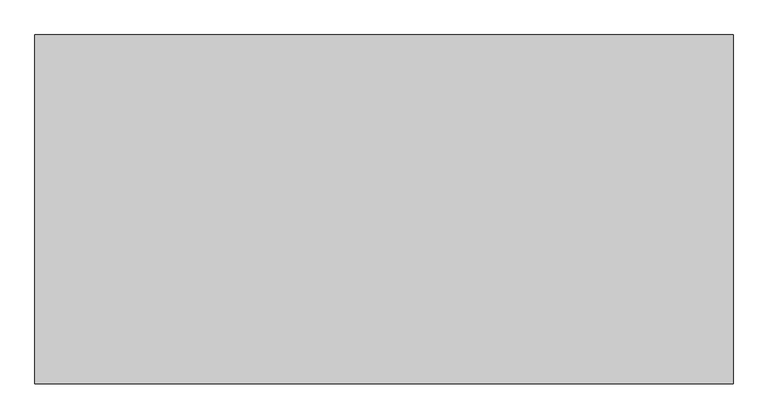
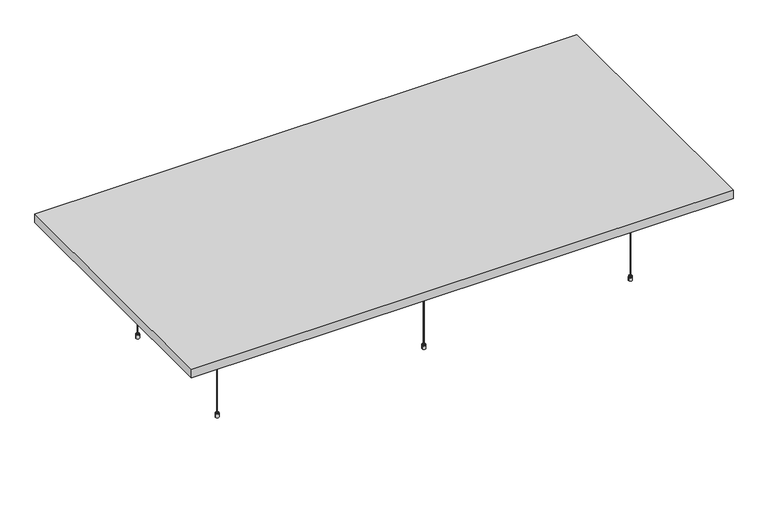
"""IFC4 building model written with IfcOpenShell, lengths in millimetres: proxy geometry, OWA Selecta : Selecta grande."""

from ifc_helpers import new_model, si_unit, point, frame, frame_2d, origin, place, context, project, spatial, polyline, circle_curve, trimmed, segment, composite_curve, outline, extrude, source, transform, mapped, element, save
from ifc_brep_helpers import plane_surface, cylinder_surface, revolved_surface, advanced_brep


def specialty_equipment_522a419b(model_context):
    return source(origin(), model_context, "Body", "SolidModel", [
        advanced_brep(
        [(-433.5, 305.0, 0.0), (-425.7593825, 305.0, 0.0), (-441.2406175, 305.0, 0.0), (-425.7593825, 305.0, 15.0), (-441.2406175, 305.0, 15.0), (-426.6843825, 305.0, 15.0), (-440.3156175, 305.0, 15.0), (-426.6843825, 305.0, 19.0), (-440.3156175, 305.0, 19.0), (-431.4343825, 305.0, 19.0), (-435.5656175, 305.0, 19.0), (-431.4343825, 305.0, 22.546183), (-435.5656175, 305.0, 22.546183), (-433.5, 305.0, 22.546183)],
        [
            (0, 1),
            (1, 2, circle_curve(frame((-433.5, 305.0, 0.0), z_axis=(0.0, 0.0, -1.0), x_axis=(-1.0, 0.0, 0.0)), 7.7406175)),
            (2, 0),
            (2, 1, circle_curve(frame((-433.5, 305.0, 0.0), z_axis=(0.0, 0.0, -1.0), x_axis=(-1.0, 0.0, 0.0)), 7.7406175)),
            (1, 3),
            (3, 4, circle_curve(frame((-433.5, 305.0, 15.0), z_axis=(0.0, 0.0, -1.0), x_axis=(-1.0, 0.0, 0.0)), 7.7406175)),
            (4, 2),
            (4, 3, circle_curve(frame((-433.5, 305.0, 15.0), z_axis=(0.0, 0.0, -1.0), x_axis=(-1.0, 0.0, 0.0)), 7.7406175)),
            (3, 5),
            (5, 6, circle_curve(frame((-433.5, 305.0, 15.0), z_axis=(0.0, 0.0, -1.0), x_axis=(-1.0, 0.0, 0.0)), 6.8156175)),
            (6, 4),
            (6, 5, circle_curve(frame((-433.5, 305.0, 15.0), z_axis=(0.0, 0.0, -1.0), x_axis=(-1.0, 0.0, 0.0)), 6.8156175)),
            (5, 7),
            (7, 8, circle_curve(frame((-433.5, 305.0, 19.0), z_axis=(0.0, 0.0, -1.0), x_axis=(-1.0, 0.0, 0.0)), 6.8156175)),
            (8, 6),
            (8, 7, circle_curve(frame((-433.5, 305.0, 19.0), z_axis=(0.0, 0.0, -1.0), x_axis=(-1.0, 0.0, 0.0)), 6.8156175)),
            (7, 9),
            (9, 10, circle_curve(frame((-433.5, 305.0, 19.0), z_axis=(0.0, 0.0, -1.0), x_axis=(-1.0, 0.0, 0.0)), 2.0656175)),
            (10, 8),
            (10, 9, circle_curve(frame((-433.5, 305.0, 19.0), z_axis=(0.0, 0.0, -1.0), x_axis=(-1.0, 0.0, 0.0)), 2.0656175)),
            (9, 11),
            (11, 12, circle_curve(frame((-433.5, 305.0, 22.546183), z_axis=(0.0, 0.0, -1.0), x_axis=(-1.0, 0.0, 0.0)), 2.0656175)),
            (12, 10),
            (12, 11, circle_curve(frame((-433.5, 305.0, 22.546183), z_axis=(0.0, 0.0, -1.0), x_axis=(-1.0, 0.0, 0.0)), 2.0656175)),
            (11, 13),
            (13, 12),
        ],
        [
            plane_surface(frame((-433.5, 305.0, 0.0), z_axis=(0.0, 0.0, -1.0), x_axis=(-1.0, 0.0, 0.0))),
            cylinder_surface(frame((-433.5, 305.0, -10.0), z_axis=(0.0, 0.0, -1.0), x_axis=(-1.0, 0.0, 0.0)), 7.7406175),
            plane_surface(frame((-433.5, 305.0, 15.0), z_axis=(0.0, 0.0, 1.0), x_axis=(-1.0, 0.0, 0.0))),
            cylinder_surface(frame((-433.5, 305.0, -10.0), z_axis=(0.0, 0.0, -1.0), x_axis=(-1.0, 0.0, 0.0)), 6.8156175),
            plane_surface(frame((-433.5, 305.0, 19.0), z_axis=(0.0, 0.0, 1.0), x_axis=(-1.0, 0.0, 0.0))),
            cylinder_surface(frame((-433.5, 305.0, -10.0), z_axis=(0.0, 0.0, -1.0), x_axis=(-1.0, 0.0, 0.0)), 2.0656175),
            plane_surface(frame((-433.5, 305.0, 22.546183), z_axis=(0.0, 0.0, 1.0), x_axis=(-1.0, 0.0, 0.0))),
        ],
        [
            (0, [[1, 2, 3]]),
            (0, [[-3, 4, -1]]),
            (1, [[5, 6, 7, -2]]),
            (1, [[-7, 8, -5, -4]]),
            (2, [[9, 10, 11, -6]]),
            (2, [[-11, 12, -9, -8]]),
            (3, [[13, 14, 15, -10]]),
            (3, [[-15, 16, -13, -12]]),
            (4, [[17, 18, 19, -14]]),
            (4, [[-19, 20, -17, -16]]),
            (5, [[21, 22, 23, -18]]),
            (5, [[-23, 24, -21, -20]]),
            (6, [[25, 26, -22]]),
            (6, [[-26, -25, -24]]),
        ],
    ),
        advanced_brep(
        [(-431.2615389, 305.0, 428.8211737), (-431.1339453, 305.0, 432.8711737), (-435.8660547, 305.0, 432.8711737), (-435.7384611, 305.0, 428.8211737), (-428.6339453, 305.0, 432.8711737), (-438.3660547, 305.0, 432.8711737), (-428.6339453, 305.0, 458.1211737), (-438.3660547, 305.0, 458.1211737), (-417.6339453, 305.0, 458.1211737), (-449.3660547, 305.0, 458.1211737), (-417.6339453, 305.0, 460.0), (-449.3660547, 305.0, 460.0), (-433.5, 305.0, 460.0), (-433.5, 305.0, 428.8211737)],
        [
            (0, 1),
            (1, 2, circle_curve(frame((-433.5, 305.0, 432.8711737), z_axis=(0.0, 0.0, -1.0), x_axis=(-1.0, 0.0, 0.0)), 2.3660547)),
            (2, 3),
            (3, 0, circle_curve(frame((-433.5, 305.0, 428.8211737), z_axis=(0.0, 0.0, 1.0), x_axis=(-1.0, 0.0, 0.0)), 2.2384611)),
            (2, 1, circle_curve(frame((-433.5, 305.0, 432.8711737), z_axis=(0.0, 0.0, -1.0), x_axis=(-1.0, 0.0, 0.0)), 2.3660547)),
            (0, 3, circle_curve(frame((-433.5, 305.0, 428.8211737), z_axis=(0.0, 0.0, 1.0), x_axis=(-1.0, 0.0, 0.0)), 2.2384611)),
            (1, 4),
            (4, 5, circle_curve(frame((-433.5, 305.0, 432.8711737), z_axis=(0.0, 0.0, -1.0), x_axis=(-1.0, 0.0, 0.0)), 4.8660547)),
            (5, 2),
            (5, 4, circle_curve(frame((-433.5, 305.0, 432.8711737), z_axis=(0.0, 0.0, -1.0), x_axis=(-1.0, 0.0, 0.0)), 4.8660547)),
            (4, 6),
            (6, 7, circle_curve(frame((-433.5, 305.0, 458.1211737), z_axis=(0.0, 0.0, -1.0), x_axis=(-1.0, 0.0, 0.0)), 4.8660547)),
            (7, 5),
            (7, 6, circle_curve(frame((-433.5, 305.0, 458.1211737), z_axis=(0.0, 0.0, -1.0), x_axis=(-1.0, 0.0, 0.0)), 4.8660547)),
            (6, 8),
            (8, 9, circle_curve(frame((-433.5, 305.0, 458.1211737), z_axis=(0.0, 0.0, -1.0), x_axis=(-1.0, 0.0, 0.0)), 15.8660547)),
            (9, 7),
            (9, 8, circle_curve(frame((-433.5, 305.0, 458.1211737), z_axis=(0.0, 0.0, -1.0), x_axis=(-1.0, 0.0, 0.0)), 15.8660547)),
            (8, 10),
            (10, 11, circle_curve(frame((-433.5, 305.0, 460.0), z_axis=(0.0, 0.0, -1.0), x_axis=(-1.0, 0.0, 0.0)), 15.8660547)),
            (11, 9),
            (11, 10, circle_curve(frame((-433.5, 305.0, 460.0), z_axis=(0.0, 0.0, -1.0), x_axis=(-1.0, 0.0, 0.0)), 15.8660547)),
            (10, 12),
            (12, 11),
            (13, 0),
            (3, 13),
        ],
        [
            revolved_surface(polyline([(-435.8660547, 305.0, 432.8711737), (-435.7384611, 305.0, 428.8211737)]), (-433.5, 305.0, 461.8401096), (0.0, 0.0, -1.0)),
            plane_surface(frame((-433.5, 305.0, 432.8711737), z_axis=(0.0, 0.0, -1.0), x_axis=(-1.0, 0.0, 0.0))),
            cylinder_surface(frame((-433.5, 305.0, 461.8401096), z_axis=(0.0, 0.0, -1.0), x_axis=(-1.0, 0.0, 0.0)), 4.8660547),
            plane_surface(frame((-433.5, 305.0, 458.1211737), z_axis=(0.0, 0.0, -1.0), x_axis=(-1.0, 0.0, 0.0))),
            cylinder_surface(frame((-433.5, 305.0, 461.8401096), z_axis=(0.0, 0.0, -1.0), x_axis=(-1.0, 0.0, 0.0)), 15.8660547),
            plane_surface(frame((-433.5, 305.0, 460.0), z_axis=(0.0, 0.0, 1.0), x_axis=(-1.0, 0.0, 0.0))),
            plane_surface(frame((-433.5, 305.0, 428.8211737), z_axis=(0.0, 0.0, -1.0), x_axis=(-1.0, 0.0, 0.0))),
        ],
        [
            (0, [[1, 2, 3, 4]]),
            (0, [[-3, 5, -1, 6]]),
            (1, [[7, 8, 9, -2]]),
            (1, [[-9, 10, -7, -5]]),
            (2, [[11, 12, 13, -8]]),
            (2, [[-13, 14, -11, -10]]),
            (3, [[15, 16, 17, -12]]),
            (3, [[-17, 18, -15, -14]]),
            (4, [[19, 20, 21, -16]]),
            (4, [[-21, 22, -19, -18]]),
            (5, [[23, 24, -20]]),
            (5, [[-24, -23, -22]]),
            (6, [[25, -4, 26]]),
            (6, [[-26, -6, -25]]),
        ],
    ),
        extrude(outline(composite_curve([segment(trimmed(circle_curve(frame_2d((-433.5, 305.0)), 1.0), [point((-434.5, 305.0))], [point((-432.5, 305.0))], False, "CARTESIAN"), True, "CONTINUOUS"), segment(trimmed(circle_curve(frame_2d((-433.5, 305.0)), 1.0), [point((-432.5, 305.0))], [point((-434.5, 305.0))], False, "CARTESIAN"), True, "CONTINUOUS")], self_intersect=False)), frame((0.0, 0.0, 22.546183), z_axis=(0.0, 0.0, 1.0), x_axis=(1.0, 0.0, 0.0)), (0.0, 0.0, 1.0), 406.2749908),
        advanced_brep(
        [(-433.5, -305.0, 0.0), (-441.2406175, -305.0, 0.0), (-425.7593825, -305.0, 0.0), (-441.2406175, -305.0, 15.0), (-425.7593825, -305.0, 15.0), (-440.3156175, -305.0, 15.0), (-426.6843825, -305.0, 15.0), (-440.3156175, -305.0, 19.0), (-426.6843825, -305.0, 19.0), (-435.5656175, -305.0, 19.0), (-431.4343825, -305.0, 19.0), (-435.5656175, -305.0, 22.546183), (-431.4343825, -305.0, 22.546183), (-433.5, -305.0, 22.546183)],
        [
            (0, 1),
            (1, 2, circle_curve(frame((-433.5, -305.0, 0.0), z_axis=(0.0, 0.0, -1.0), x_axis=(-1.0, 0.0, 0.0)), 7.7406175)),
            (2, 0),
            (2, 1, circle_curve(frame((-433.5, -305.0, 0.0), z_axis=(0.0, 0.0, -1.0), x_axis=(-1.0, 0.0, 0.0)), 7.7406175)),
            (1, 3),
            (3, 4, circle_curve(frame((-433.5, -305.0, 15.0), z_axis=(0.0, 0.0, -1.0), x_axis=(-1.0, 0.0, 0.0)), 7.7406175)),
            (4, 2),
            (4, 3, circle_curve(frame((-433.5, -305.0, 15.0), z_axis=(0.0, 0.0, -1.0), x_axis=(-1.0, 0.0, 0.0)), 7.7406175)),
            (3, 5),
            (5, 6, circle_curve(frame((-433.5, -305.0, 15.0), z_axis=(0.0, 0.0, -1.0), x_axis=(-1.0, 0.0, 0.0)), 6.8156175)),
            (6, 4),
            (6, 5, circle_curve(frame((-433.5, -305.0, 15.0), z_axis=(0.0, 0.0, -1.0), x_axis=(-1.0, 0.0, 0.0)), 6.8156175)),
            (5, 7),
            (7, 8, circle_curve(frame((-433.5, -305.0, 19.0), z_axis=(0.0, 0.0, -1.0), x_axis=(-1.0, 0.0, 0.0)), 6.8156175)),
            (8, 6),
            (8, 7, circle_curve(frame((-433.5, -305.0, 19.0), z_axis=(0.0, 0.0, -1.0), x_axis=(-1.0, 0.0, 0.0)), 6.8156175)),
            (7, 9),
            (9, 10, circle_curve(frame((-433.5, -305.0, 19.0), z_axis=(0.0, 0.0, -1.0), x_axis=(-1.0, 0.0, 0.0)), 2.0656175)),
            (10, 8),
            (10, 9, circle_curve(frame((-433.5, -305.0, 19.0), z_axis=(0.0, 0.0, -1.0), x_axis=(-1.0, 0.0, 0.0)), 2.0656175)),
            (9, 11),
            (11, 12, circle_curve(frame((-433.5, -305.0, 22.546183), z_axis=(0.0, 0.0, -1.0), x_axis=(-1.0, 0.0, 0.0)), 2.0656175)),
            (12, 10),
            (12, 11, circle_curve(frame((-433.5, -305.0, 22.546183), z_axis=(0.0, 0.0, -1.0), x_axis=(-1.0, 0.0, 0.0)), 2.0656175)),
            (11, 13),
            (13, 12),
        ],
        [
            plane_surface(frame((-433.5, -305.0, 0.0), z_axis=(0.0, 0.0, -1.0), x_axis=(-1.0, 0.0, 0.0))),
            cylinder_surface(frame((-433.5, -305.0, -10.0), z_axis=(0.0, 0.0, -1.0), x_axis=(-1.0, 0.0, 0.0)), 7.7406175),
            plane_surface(frame((-433.5, -305.0, 15.0), z_axis=(0.0, 0.0, 1.0), x_axis=(-1.0, 0.0, 0.0))),
            cylinder_surface(frame((-433.5, -305.0, -10.0), z_axis=(0.0, 0.0, -1.0), x_axis=(-1.0, 0.0, 0.0)), 6.8156175),
            plane_surface(frame((-433.5, -305.0, 19.0), z_axis=(0.0, 0.0, 1.0), x_axis=(-1.0, 0.0, 0.0))),
            cylinder_surface(frame((-433.5, -305.0, -10.0), z_axis=(0.0, 0.0, -1.0), x_axis=(-1.0, 0.0, 0.0)), 2.0656175),
            plane_surface(frame((-433.5, -305.0, 22.546183), z_axis=(0.0, 0.0, 1.0), x_axis=(-1.0, 0.0, 0.0))),
        ],
        [
            (0, [[1, 2, 3]]),
            (0, [[-3, 4, -1]]),
            (1, [[-2, 5, 6, 7]]),
            (1, [[-4, -7, 8, -5]]),
            (2, [[-6, 9, 10, 11]]),
            (2, [[-8, -11, 12, -9]]),
            (3, [[-10, 13, 14, 15]]),
            (3, [[-12, -15, 16, -13]]),
            (4, [[-14, 17, 18, 19]]),
            (4, [[-16, -19, 20, -17]]),
            (5, [[-18, 21, 22, 23]]),
            (5, [[-20, -23, 24, -21]]),
            (6, [[-22, 25, 26]]),
            (6, [[-24, -26, -25]]),
        ],
    ),
        advanced_brep(
        [(-431.2615389, -305.0, 428.8211737), (-435.7384611, -305.0, 428.8211737), (-435.8660547, -305.0, 432.8711737), (-431.1339453, -305.0, 432.8711737), (-438.3660547, -305.0, 432.8711737), (-428.6339453, -305.0, 432.8711737), (-438.3660547, -305.0, 458.1211737), (-428.6339453, -305.0, 458.1211737), (-449.3660547, -305.0, 458.1211737), (-417.6339453, -305.0, 458.1211737), (-449.3660547, -305.0, 460.0), (-417.6339453, -305.0, 460.0), (-433.5, -305.0, 460.0), (-433.5, -305.0, 428.8211737)],
        [
            (0, 1, circle_curve(frame((-433.5, -305.0, 428.8211737), z_axis=(0.0, 0.0, 1.0), x_axis=(-1.0, 0.0, 0.0)), 2.2384611)),
            (1, 2),
            (2, 3, circle_curve(frame((-433.5, -305.0, 432.8711737), z_axis=(0.0, 0.0, -1.0), x_axis=(-1.0, 0.0, 0.0)), 2.3660547)),
            (3, 0),
            (1, 0, circle_curve(frame((-433.5, -305.0, 428.8211737), z_axis=(0.0, 0.0, 1.0), x_axis=(-1.0, 0.0, 0.0)), 2.2384611)),
            (3, 2, circle_curve(frame((-433.5, -305.0, 432.8711737), z_axis=(0.0, 0.0, -1.0), x_axis=(-1.0, 0.0, 0.0)), 2.3660547)),
            (2, 4),
            (4, 5, circle_curve(frame((-433.5, -305.0, 432.8711737), z_axis=(0.0, 0.0, -1.0), x_axis=(-1.0, 0.0, 0.0)), 4.8660547)),
            (5, 3),
            (5, 4, circle_curve(frame((-433.5, -305.0, 432.8711737), z_axis=(0.0, 0.0, -1.0), x_axis=(-1.0, 0.0, 0.0)), 4.8660547)),
            (4, 6),
            (6, 7, circle_curve(frame((-433.5, -305.0, 458.1211737), z_axis=(0.0, 0.0, -1.0), x_axis=(-1.0, 0.0, 0.0)), 4.8660547)),
            (7, 5),
            (7, 6, circle_curve(frame((-433.5, -305.0, 458.1211737), z_axis=(0.0, 0.0, -1.0), x_axis=(-1.0, 0.0, 0.0)), 4.8660547)),
            (6, 8),
            (8, 9, circle_curve(frame((-433.5, -305.0, 458.1211737), z_axis=(0.0, 0.0, -1.0), x_axis=(-1.0, 0.0, 0.0)), 15.8660547)),
            (9, 7),
            (9, 8, circle_curve(frame((-433.5, -305.0, 458.1211737), z_axis=(0.0, 0.0, -1.0), x_axis=(-1.0, 0.0, 0.0)), 15.8660547)),
            (8, 10),
            (10, 11, circle_curve(frame((-433.5, -305.0, 460.0), z_axis=(0.0, 0.0, -1.0), x_axis=(-1.0, 0.0, 0.0)), 15.8660547)),
            (11, 9),
            (11, 10, circle_curve(frame((-433.5, -305.0, 460.0), z_axis=(0.0, 0.0, -1.0), x_axis=(-1.0, 0.0, 0.0)), 15.8660547)),
            (10, 12),
            (12, 11),
            (13, 1),
            (0, 13),
        ],
        [
            revolved_surface(polyline([(-435.8660547, -305.0, 432.8711737), (-435.7384611, -305.0, 428.8211737)]), (-433.5, -305.0, 461.8401096), (0.0, 0.0, -1.0)),
            plane_surface(frame((-433.5, -305.0, 432.8711737), z_axis=(0.0, 0.0, -1.0), x_axis=(-1.0, 0.0, 0.0))),
            cylinder_surface(frame((-433.5, -305.0, 461.8401096), z_axis=(0.0, 0.0, -1.0), x_axis=(-1.0, 0.0, 0.0)), 4.8660547),
            plane_surface(frame((-433.5, -305.0, 458.1211737), z_axis=(0.0, 0.0, -1.0), x_axis=(-1.0, 0.0, 0.0))),
            cylinder_surface(frame((-433.5, -305.0, 461.8401096), z_axis=(0.0, 0.0, -1.0), x_axis=(-1.0, 0.0, 0.0)), 15.8660547),
            plane_surface(frame((-433.5, -305.0, 460.0), z_axis=(0.0, 0.0, 1.0), x_axis=(-1.0, 0.0, 0.0))),
            plane_surface(frame((-433.5, -305.0, 428.8211737), z_axis=(0.0, 0.0, -1.0), x_axis=(-1.0, 0.0, 0.0))),
        ],
        [
            (0, [[1, 2, 3, 4]]),
            (0, [[5, -4, 6, -2]]),
            (1, [[-3, 7, 8, 9]]),
            (1, [[-6, -9, 10, -7]]),
            (2, [[-8, 11, 12, 13]]),
            (2, [[-10, -13, 14, -11]]),
            (3, [[-12, 15, 16, 17]]),
            (3, [[-14, -17, 18, -15]]),
            (4, [[-16, 19, 20, 21]]),
            (4, [[-18, -21, 22, -19]]),
            (5, [[-20, 23, 24]]),
            (5, [[-22, -24, -23]]),
            (6, [[25, -1, 26]]),
            (6, [[-26, -5, -25]]),
        ],
    ),
        extrude(outline(composite_curve([segment(trimmed(circle_curve(frame_2d((-433.5, -305.0)), 1.0), [point((-434.5, -305.0))], [point((-432.5, -305.0))], False, "CARTESIAN"), True, "CONTINUOUS"), segment(trimmed(circle_curve(frame_2d((-433.5, -305.0)), 1.0), [point((-432.5, -305.0))], [point((-434.5, -305.0))], False, "CARTESIAN"), True, "CONTINUOUS")], self_intersect=False)), frame((0.0, 0.0, 22.546183), z_axis=(0.0, 0.0, 1.0), x_axis=(1.0, 0.0, 0.0)), (0.0, 0.0, 1.0), 406.2749908),
        advanced_brep(
        [(-1348.5, 305.0, 0.0), (-1340.7593825, 305.0, 0.0), (-1356.2406175, 305.0, 0.0), (-1340.7593825, 305.0, 15.0), (-1356.2406175, 305.0, 15.0), (-1341.6843825, 305.0, 15.0), (-1355.3156175, 305.0, 15.0), (-1341.6843825, 305.0, 19.0), (-1355.3156175, 305.0, 19.0), (-1346.4343825, 305.0, 19.0), (-1350.5656175, 305.0, 19.0), (-1346.4343825, 305.0, 22.546183), (-1350.5656175, 305.0, 22.546183), (-1348.5, 305.0, 22.546183)],
        [
            (0, 1),
            (1, 2, circle_curve(frame((-1348.5, 305.0, 0.0), z_axis=(0.0, 0.0, -1.0), x_axis=(-1.0, 0.0, 0.0)), 7.7406175)),
            (2, 0),
            (2, 1, circle_curve(frame((-1348.5, 305.0, 0.0), z_axis=(0.0, 0.0, -1.0), x_axis=(-1.0, 0.0, 0.0)), 7.7406175)),
            (1, 3),
            (3, 4, circle_curve(frame((-1348.5, 305.0, 15.0), z_axis=(0.0, 0.0, -1.0), x_axis=(-1.0, 0.0, 0.0)), 7.7406175)),
            (4, 2),
            (4, 3, circle_curve(frame((-1348.5, 305.0, 15.0), z_axis=(0.0, 0.0, -1.0), x_axis=(-1.0, 0.0, 0.0)), 7.7406175)),
            (3, 5),
            (5, 6, circle_curve(frame((-1348.5, 305.0, 15.0), z_axis=(0.0, 0.0, -1.0), x_axis=(-1.0, 0.0, 0.0)), 6.8156175)),
            (6, 4),
            (6, 5, circle_curve(frame((-1348.5, 305.0, 15.0), z_axis=(0.0, 0.0, -1.0), x_axis=(-1.0, 0.0, 0.0)), 6.8156175)),
            (5, 7),
            (7, 8, circle_curve(frame((-1348.5, 305.0, 19.0), z_axis=(0.0, 0.0, -1.0), x_axis=(-1.0, 0.0, 0.0)), 6.8156175)),
            (8, 6),
            (8, 7, circle_curve(frame((-1348.5, 305.0, 19.0), z_axis=(0.0, 0.0, -1.0), x_axis=(-1.0, 0.0, 0.0)), 6.8156175)),
            (7, 9),
            (9, 10, circle_curve(frame((-1348.5, 305.0, 19.0), z_axis=(0.0, 0.0, -1.0), x_axis=(-1.0, 0.0, 0.0)), 2.0656175)),
            (10, 8),
            (10, 9, circle_curve(frame((-1348.5, 305.0, 19.0), z_axis=(0.0, 0.0, -1.0), x_axis=(-1.0, 0.0, 0.0)), 2.0656175)),
            (9, 11),
            (11, 12, circle_curve(frame((-1348.5, 305.0, 22.546183), z_axis=(0.0, 0.0, -1.0), x_axis=(-1.0, 0.0, 0.0)), 2.0656175)),
            (12, 10),
            (12, 11, circle_curve(frame((-1348.5, 305.0, 22.546183), z_axis=(0.0, 0.0, -1.0), x_axis=(-1.0, 0.0, 0.0)), 2.0656175)),
            (11, 13),
            (13, 12),
        ],
        [
            plane_surface(frame((-1348.5, 305.0, 0.0), z_axis=(0.0, 0.0, -1.0), x_axis=(-1.0, 0.0, 0.0))),
            cylinder_surface(frame((-1348.5, 305.0, -10.0), z_axis=(0.0, 0.0, -1.0), x_axis=(-1.0, 0.0, 0.0)), 7.7406175),
            plane_surface(frame((-1348.5, 305.0, 15.0), z_axis=(0.0, 0.0, 1.0), x_axis=(-1.0, 0.0, 0.0))),
            cylinder_surface(frame((-1348.5, 305.0, -10.0), z_axis=(0.0, 0.0, -1.0), x_axis=(-1.0, 0.0, 0.0)), 6.8156175),
            plane_surface(frame((-1348.5, 305.0, 19.0), z_axis=(0.0, 0.0, 1.0), x_axis=(-1.0, 0.0, 0.0))),
            cylinder_surface(frame((-1348.5, 305.0, -10.0), z_axis=(0.0, 0.0, -1.0), x_axis=(-1.0, 0.0, 0.0)), 2.0656175),
            plane_surface(frame((-1348.5, 305.0, 22.546183), z_axis=(0.0, 0.0, 1.0), x_axis=(-1.0, 0.0, 0.0))),
        ],
        [
            (0, [[1, 2, 3]]),
            (0, [[-3, 4, -1]]),
            (1, [[5, 6, 7, -2]]),
            (1, [[-7, 8, -5, -4]]),
            (2, [[9, 10, 11, -6]]),
            (2, [[-11, 12, -9, -8]]),
            (3, [[13, 14, 15, -10]]),
            (3, [[-15, 16, -13, -12]]),
            (4, [[17, 18, 19, -14]]),
            (4, [[-19, 20, -17, -16]]),
            (5, [[21, 22, 23, -18]]),
            (5, [[-23, 24, -21, -20]]),
            (6, [[25, 26, -22]]),
            (6, [[-26, -25, -24]]),
        ],
    ),
        advanced_brep(
        [(-1346.2615389, 305.0, 428.8211737), (-1346.1339453, 305.0, 432.8711737), (-1350.8660547, 305.0, 432.8711737), (-1350.7384611, 305.0, 428.8211737), (-1343.6339453, 305.0, 432.8711737), (-1353.3660547, 305.0, 432.8711737), (-1343.6339453, 305.0, 458.1211737), (-1353.3660547, 305.0, 458.1211737), (-1332.6339453, 305.0, 458.1211737), (-1364.3660547, 305.0, 458.1211737), (-1332.6339453, 305.0, 460.0), (-1364.3660547, 305.0, 460.0), (-1348.5, 305.0, 460.0), (-1348.5, 305.0, 428.8211737)],
        [
            (0, 1),
            (1, 2, circle_curve(frame((-1348.5, 305.0, 432.8711737), z_axis=(0.0, 0.0, -1.0), x_axis=(-1.0, 0.0, 0.0)), 2.3660547)),
            (2, 3),
            (3, 0, circle_curve(frame((-1348.5, 305.0, 428.8211737), z_axis=(0.0, 0.0, 1.0), x_axis=(-1.0, 0.0, 0.0)), 2.2384611)),
            (2, 1, circle_curve(frame((-1348.5, 305.0, 432.8711737), z_axis=(0.0, 0.0, -1.0), x_axis=(-1.0, 0.0, 0.0)), 2.3660547)),
            (0, 3, circle_curve(frame((-1348.5, 305.0, 428.8211737), z_axis=(0.0, 0.0, 1.0), x_axis=(-1.0, 0.0, 0.0)), 2.2384611)),
            (1, 4),
            (4, 5, circle_curve(frame((-1348.5, 305.0, 432.8711737), z_axis=(0.0, 0.0, -1.0), x_axis=(-1.0, 0.0, 0.0)), 4.8660547)),
            (5, 2),
            (5, 4, circle_curve(frame((-1348.5, 305.0, 432.8711737), z_axis=(0.0, 0.0, -1.0), x_axis=(-1.0, 0.0, 0.0)), 4.8660547)),
            (4, 6),
            (6, 7, circle_curve(frame((-1348.5, 305.0, 458.1211737), z_axis=(0.0, 0.0, -1.0), x_axis=(-1.0, 0.0, 0.0)), 4.8660547)),
            (7, 5),
            (7, 6, circle_curve(frame((-1348.5, 305.0, 458.1211737), z_axis=(0.0, 0.0, -1.0), x_axis=(-1.0, 0.0, 0.0)), 4.8660547)),
            (6, 8),
            (8, 9, circle_curve(frame((-1348.5, 305.0, 458.1211737), z_axis=(0.0, 0.0, -1.0), x_axis=(-1.0, 0.0, 0.0)), 15.8660547)),
            (9, 7),
            (9, 8, circle_curve(frame((-1348.5, 305.0, 458.1211737), z_axis=(0.0, 0.0, -1.0), x_axis=(-1.0, 0.0, 0.0)), 15.8660547)),
            (8, 10),
            (10, 11, circle_curve(frame((-1348.5, 305.0, 460.0), z_axis=(0.0, 0.0, -1.0), x_axis=(-1.0, 0.0, 0.0)), 15.8660547)),
            (11, 9),
            (11, 10, circle_curve(frame((-1348.5, 305.0, 460.0), z_axis=(0.0, 0.0, -1.0), x_axis=(-1.0, 0.0, 0.0)), 15.8660547)),
            (10, 12),
            (12, 11),
            (13, 0),
            (3, 13),
        ],
        [
            revolved_surface(polyline([(-1350.8660547, 305.0, 432.8711737), (-1350.7384611, 305.0, 428.8211737)]), (-1348.5, 305.0, 461.8401096), (0.0, 0.0, -1.0)),
            plane_surface(frame((-1348.5, 305.0, 432.8711737), z_axis=(0.0, 0.0, -1.0), x_axis=(-1.0, 0.0, 0.0))),
            cylinder_surface(frame((-1348.5, 305.0, 461.8401096), z_axis=(0.0, 0.0, -1.0), x_axis=(-1.0, 0.0, 0.0)), 4.8660547),
            plane_surface(frame((-1348.5, 305.0, 458.1211737), z_axis=(0.0, 0.0, -1.0), x_axis=(-1.0, 0.0, 0.0))),
            cylinder_surface(frame((-1348.5, 305.0, 461.8401096), z_axis=(0.0, 0.0, -1.0), x_axis=(-1.0, 0.0, 0.0)), 15.8660547),
            plane_surface(frame((-1348.5, 305.0, 460.0), z_axis=(0.0, 0.0, 1.0), x_axis=(-1.0, 0.0, 0.0))),
            plane_surface(frame((-1348.5, 305.0, 428.8211737), z_axis=(0.0, 0.0, -1.0), x_axis=(-1.0, 0.0, 0.0))),
        ],
        [
            (0, [[1, 2, 3, 4]]),
            (0, [[-3, 5, -1, 6]]),
            (1, [[7, 8, 9, -2]]),
            (1, [[-9, 10, -7, -5]]),
            (2, [[11, 12, 13, -8]]),
            (2, [[-13, 14, -11, -10]]),
            (3, [[15, 16, 17, -12]]),
            (3, [[-17, 18, -15, -14]]),
            (4, [[19, 20, 21, -16]]),
            (4, [[-21, 22, -19, -18]]),
            (5, [[23, 24, -20]]),
            (5, [[-24, -23, -22]]),
            (6, [[25, -4, 26]]),
            (6, [[-26, -6, -25]]),
        ],
    ),
        extrude(outline(composite_curve([segment(trimmed(circle_curve(frame_2d((-1348.5, 305.0)), 1.0), [point((-1349.5, 305.0))], [point((-1347.5, 305.0))], False, "CARTESIAN"), True, "CONTINUOUS"), segment(trimmed(circle_curve(frame_2d((-1348.5, 305.0)), 1.0), [point((-1347.5, 305.0))], [point((-1349.5, 305.0))], False, "CARTESIAN"), True, "CONTINUOUS")], self_intersect=False)), frame((0.0, 0.0, 22.546183), z_axis=(0.0, 0.0, 1.0), x_axis=(1.0, 0.0, 0.0)), (0.0, 0.0, 1.0), 406.2749908),
        advanced_brep(
        [(481.5, 305.0, 0.0), (489.2406175, 305.0, 0.0), (473.7593825, 305.0, 0.0), (489.2406175, 305.0, 15.0), (473.7593825, 305.0, 15.0), (488.3156175, 305.0, 15.0), (474.6843825, 305.0, 15.0), (488.3156175, 305.0, 19.0), (474.6843825, 305.0, 19.0), (483.5656175, 305.0, 19.0), (479.4343825, 305.0, 19.0), (483.5656175, 305.0, 22.546183), (479.4343825, 305.0, 22.546183), (481.5, 305.0, 22.546183)],
        [
            (0, 1),
            (1, 2, circle_curve(frame((481.5, 305.0, 0.0), z_axis=(0.0, 0.0, -1.0), x_axis=(1.0, 0.0, 0.0)), 7.7406175)),
            (2, 0),
            (2, 1, circle_curve(frame((481.5, 305.0, 0.0), z_axis=(0.0, 0.0, -1.0), x_axis=(1.0, 0.0, 0.0)), 7.7406175)),
            (1, 3),
            (3, 4, circle_curve(frame((481.5, 305.0, 15.0), z_axis=(0.0, 0.0, -1.0), x_axis=(1.0, 0.0, 0.0)), 7.7406175)),
            (4, 2),
            (4, 3, circle_curve(frame((481.5, 305.0, 15.0), z_axis=(0.0, 0.0, -1.0), x_axis=(1.0, 0.0, 0.0)), 7.7406175)),
            (3, 5),
            (5, 6, circle_curve(frame((481.5, 305.0, 15.0), z_axis=(0.0, 0.0, -1.0), x_axis=(1.0, 0.0, 0.0)), 6.8156175)),
            (6, 4),
            (6, 5, circle_curve(frame((481.5, 305.0, 15.0), z_axis=(0.0, 0.0, -1.0), x_axis=(1.0, 0.0, 0.0)), 6.8156175)),
            (5, 7),
            (7, 8, circle_curve(frame((481.5, 305.0, 19.0), z_axis=(0.0, 0.0, -1.0), x_axis=(1.0, 0.0, 0.0)), 6.8156175)),
            (8, 6),
            (8, 7, circle_curve(frame((481.5, 305.0, 19.0), z_axis=(0.0, 0.0, -1.0), x_axis=(1.0, 0.0, 0.0)), 6.8156175)),
            (7, 9),
            (9, 10, circle_curve(frame((481.5, 305.0, 19.0), z_axis=(0.0, 0.0, -1.0), x_axis=(1.0, 0.0, 0.0)), 2.0656175)),
            (10, 8),
            (10, 9, circle_curve(frame((481.5, 305.0, 19.0), z_axis=(0.0, 0.0, -1.0), x_axis=(1.0, 0.0, 0.0)), 2.0656175)),
            (9, 11),
            (11, 12, circle_curve(frame((481.5, 305.0, 22.546183), z_axis=(0.0, 0.0, -1.0), x_axis=(1.0, 0.0, 0.0)), 2.0656175)),
            (12, 10),
            (12, 11, circle_curve(frame((481.5, 305.0, 22.546183), z_axis=(0.0, 0.0, -1.0), x_axis=(1.0, 0.0, 0.0)), 2.0656175)),
            (11, 13),
            (13, 12),
        ],
        [
            plane_surface(frame((481.5, 305.0, 0.0), z_axis=(0.0, 0.0, -1.0), x_axis=(1.0, 0.0, 0.0))),
            cylinder_surface(frame((481.5, 305.0, -10.0), z_axis=(0.0, 0.0, -1.0), x_axis=(1.0, 0.0, 0.0)), 7.7406175),
            plane_surface(frame((481.5, 305.0, 15.0), z_axis=(0.0, 0.0, 1.0), x_axis=(1.0, 0.0, 0.0))),
            cylinder_surface(frame((481.5, 305.0, -10.0), z_axis=(0.0, 0.0, -1.0), x_axis=(1.0, 0.0, 0.0)), 6.8156175),
            plane_surface(frame((481.5, 305.0, 19.0), z_axis=(0.0, 0.0, 1.0), x_axis=(1.0, 0.0, 0.0))),
            cylinder_surface(frame((481.5, 305.0, -10.0), z_axis=(0.0, 0.0, -1.0), x_axis=(1.0, 0.0, 0.0)), 2.0656175),
            plane_surface(frame((481.5, 305.0, 22.546183), z_axis=(0.0, 0.0, 1.0), x_axis=(1.0, 0.0, 0.0))),
        ],
        [
            (0, [[1, 2, 3]]),
            (0, [[-3, 4, -1]]),
            (1, [[-2, 5, 6, 7]]),
            (1, [[-4, -7, 8, -5]]),
            (2, [[-6, 9, 10, 11]]),
            (2, [[-8, -11, 12, -9]]),
            (3, [[-10, 13, 14, 15]]),
            (3, [[-12, -15, 16, -13]]),
            (4, [[-14, 17, 18, 19]]),
            (4, [[-16, -19, 20, -17]]),
            (5, [[-18, 21, 22, 23]]),
            (5, [[-20, -23, 24, -21]]),
            (6, [[-22, 25, 26]]),
            (6, [[-24, -26, -25]]),
        ],
    ),
        advanced_brep(
        [(479.2615389, 305.0, 428.8211737), (483.7384611, 305.0, 428.8211737), (483.8660547, 305.0, 432.8711737), (479.1339453, 305.0, 432.8711737), (486.3660547, 305.0, 432.8711737), (476.6339453, 305.0, 432.8711737), (486.3660547, 305.0, 458.1211737), (476.6339453, 305.0, 458.1211737), (497.3660547, 305.0, 458.1211737), (465.6339453, 305.0, 458.1211737), (497.3660547, 305.0, 460.0), (465.6339453, 305.0, 460.0), (481.5, 305.0, 460.0), (481.5, 305.0, 428.8211737)],
        [
            (0, 1, circle_curve(frame((481.5, 305.0, 428.8211737), z_axis=(0.0, 0.0, 1.0), x_axis=(1.0, 0.0, 0.0)), 2.2384611)),
            (1, 2),
            (2, 3, circle_curve(frame((481.5, 305.0, 432.8711737), z_axis=(0.0, 0.0, -1.0), x_axis=(1.0, 0.0, 0.0)), 2.3660547)),
            (3, 0),
            (1, 0, circle_curve(frame((481.5, 305.0, 428.8211737), z_axis=(0.0, 0.0, 1.0), x_axis=(1.0, 0.0, 0.0)), 2.2384611)),
            (3, 2, circle_curve(frame((481.5, 305.0, 432.8711737), z_axis=(0.0, 0.0, -1.0), x_axis=(1.0, 0.0, 0.0)), 2.3660547)),
            (2, 4),
            (4, 5, circle_curve(frame((481.5, 305.0, 432.8711737), z_axis=(0.0, 0.0, -1.0), x_axis=(1.0, 0.0, 0.0)), 4.8660547)),
            (5, 3),
            (5, 4, circle_curve(frame((481.5, 305.0, 432.8711737), z_axis=(0.0, 0.0, -1.0), x_axis=(1.0, 0.0, 0.0)), 4.8660547)),
            (4, 6),
            (6, 7, circle_curve(frame((481.5, 305.0, 458.1211737), z_axis=(0.0, 0.0, -1.0), x_axis=(1.0, 0.0, 0.0)), 4.8660547)),
            (7, 5),
            (7, 6, circle_curve(frame((481.5, 305.0, 458.1211737), z_axis=(0.0, 0.0, -1.0), x_axis=(1.0, 0.0, 0.0)), 4.8660547)),
            (6, 8),
            (8, 9, circle_curve(frame((481.5, 305.0, 458.1211737), z_axis=(0.0, 0.0, -1.0), x_axis=(1.0, 0.0, 0.0)), 15.8660547)),
            (9, 7),
            (9, 8, circle_curve(frame((481.5, 305.0, 458.1211737), z_axis=(0.0, 0.0, -1.0), x_axis=(1.0, 0.0, 0.0)), 15.8660547)),
            (8, 10),
            (10, 11, circle_curve(frame((481.5, 305.0, 460.0), z_axis=(0.0, 0.0, -1.0), x_axis=(1.0, 0.0, 0.0)), 15.8660547)),
            (11, 9),
            (11, 10, circle_curve(frame((481.5, 305.0, 460.0), z_axis=(0.0, 0.0, -1.0), x_axis=(1.0, 0.0, 0.0)), 15.8660547)),
            (10, 12),
            (12, 11),
            (13, 1),
            (0, 13),
        ],
        [
            revolved_surface(polyline([(483.8660547, 305.0, 432.8711737), (483.7384611, 305.0, 428.8211737)]), (481.5, 305.0, 461.8401096), (0.0, 0.0, -1.0)),
            plane_surface(frame((481.5, 305.0, 432.8711737), z_axis=(0.0, 0.0, -1.0), x_axis=(1.0, 0.0, 0.0))),
            cylinder_surface(frame((481.5, 305.0, 461.8401096), z_axis=(0.0, 0.0, -1.0), x_axis=(1.0, 0.0, 0.0)), 4.8660547),
            plane_surface(frame((481.5, 305.0, 458.1211737), z_axis=(0.0, 0.0, -1.0), x_axis=(1.0, 0.0, 0.0))),
            cylinder_surface(frame((481.5, 305.0, 461.8401096), z_axis=(0.0, 0.0, -1.0), x_axis=(1.0, 0.0, 0.0)), 15.8660547),
            plane_surface(frame((481.5, 305.0, 460.0), z_axis=(0.0, 0.0, 1.0), x_axis=(1.0, 0.0, 0.0))),
            plane_surface(frame((481.5, 305.0, 428.8211737), z_axis=(0.0, 0.0, -1.0), x_axis=(1.0, 0.0, 0.0))),
        ],
        [
            (0, [[1, 2, 3, 4]]),
            (0, [[5, -4, 6, -2]]),
            (1, [[-3, 7, 8, 9]]),
            (1, [[-6, -9, 10, -7]]),
            (2, [[-8, 11, 12, 13]]),
            (2, [[-10, -13, 14, -11]]),
            (3, [[-12, 15, 16, 17]]),
            (3, [[-14, -17, 18, -15]]),
            (4, [[-16, 19, 20, 21]]),
            (4, [[-18, -21, 22, -19]]),
            (5, [[-20, 23, 24]]),
            (5, [[-22, -24, -23]]),
            (6, [[25, -1, 26]]),
            (6, [[-26, -5, -25]]),
        ],
    ),
        extrude(outline(composite_curve([segment(trimmed(circle_curve(frame_2d((481.5, 305.0)), 1.0), [point((482.5, 305.0))], [point((480.5, 305.0))], False, "CARTESIAN"), True, "CONTINUOUS"), segment(trimmed(circle_curve(frame_2d((481.5, 305.0)), 1.0), [point((480.5, 305.0))], [point((482.5, 305.0))], False, "CARTESIAN"), True, "CONTINUOUS")], self_intersect=False)), frame((0.0, 0.0, 22.546183), z_axis=(0.0, 0.0, 1.0), x_axis=(1.0, 0.0, 0.0)), (0.0, 0.0, 1.0), 406.2749908),
        advanced_brep(
        [(481.5, -305.0, 0.0), (473.7593825, -305.0, 0.0), (489.2406175, -305.0, 0.0), (473.7593825, -305.0, 15.0), (489.2406175, -305.0, 15.0), (474.6843825, -305.0, 15.0), (488.3156175, -305.0, 15.0), (474.6843825, -305.0, 19.0), (488.3156175, -305.0, 19.0), (479.4343825, -305.0, 19.0), (483.5656175, -305.0, 19.0), (479.4343825, -305.0, 22.546183), (483.5656175, -305.0, 22.546183), (481.5, -305.0, 22.546183)],
        [
            (0, 1),
            (1, 2, circle_curve(frame((481.5, -305.0, 0.0), z_axis=(0.0, 0.0, -1.0), x_axis=(1.0, 0.0, 0.0)), 7.7406175)),
            (2, 0),
            (2, 1, circle_curve(frame((481.5, -305.0, 0.0), z_axis=(0.0, 0.0, -1.0), x_axis=(1.0, 0.0, 0.0)), 7.7406175)),
            (1, 3),
            (3, 4, circle_curve(frame((481.5, -305.0, 15.0), z_axis=(0.0, 0.0, -1.0), x_axis=(1.0, 0.0, 0.0)), 7.7406175)),
            (4, 2),
            (4, 3, circle_curve(frame((481.5, -305.0, 15.0), z_axis=(0.0, 0.0, -1.0), x_axis=(1.0, 0.0, 0.0)), 7.7406175)),
            (3, 5),
            (5, 6, circle_curve(frame((481.5, -305.0, 15.0), z_axis=(0.0, 0.0, -1.0), x_axis=(1.0, 0.0, 0.0)), 6.8156175)),
            (6, 4),
            (6, 5, circle_curve(frame((481.5, -305.0, 15.0), z_axis=(0.0, 0.0, -1.0), x_axis=(1.0, 0.0, 0.0)), 6.8156175)),
            (5, 7),
            (7, 8, circle_curve(frame((481.5, -305.0, 19.0), z_axis=(0.0, 0.0, -1.0), x_axis=(1.0, 0.0, 0.0)), 6.8156175)),
            (8, 6),
            (8, 7, circle_curve(frame((481.5, -305.0, 19.0), z_axis=(0.0, 0.0, -1.0), x_axis=(1.0, 0.0, 0.0)), 6.8156175)),
            (7, 9),
            (9, 10, circle_curve(frame((481.5, -305.0, 19.0), z_axis=(0.0, 0.0, -1.0), x_axis=(1.0, 0.0, 0.0)), 2.0656175)),
            (10, 8),
            (10, 9, circle_curve(frame((481.5, -305.0, 19.0), z_axis=(0.0, 0.0, -1.0), x_axis=(1.0, 0.0, 0.0)), 2.0656175)),
            (9, 11),
            (11, 12, circle_curve(frame((481.5, -305.0, 22.546183), z_axis=(0.0, 0.0, -1.0), x_axis=(1.0, 0.0, 0.0)), 2.0656175)),
            (12, 10),
            (12, 11, circle_curve(frame((481.5, -305.0, 22.546183), z_axis=(0.0, 0.0, -1.0), x_axis=(1.0, 0.0, 0.0)), 2.0656175)),
            (11, 13),
            (13, 12),
        ],
        [
            plane_surface(frame((481.5, -305.0, 0.0), z_axis=(0.0, 0.0, -1.0), x_axis=(1.0, 0.0, 0.0))),
            cylinder_surface(frame((481.5, -305.0, -10.0), z_axis=(0.0, 0.0, -1.0), x_axis=(1.0, 0.0, 0.0)), 7.7406175),
            plane_surface(frame((481.5, -305.0, 15.0), z_axis=(0.0, 0.0, 1.0), x_axis=(1.0, 0.0, 0.0))),
            cylinder_surface(frame((481.5, -305.0, -10.0), z_axis=(0.0, 0.0, -1.0), x_axis=(1.0, 0.0, 0.0)), 6.8156175),
            plane_surface(frame((481.5, -305.0, 19.0), z_axis=(0.0, 0.0, 1.0), x_axis=(1.0, 0.0, 0.0))),
            cylinder_surface(frame((481.5, -305.0, -10.0), z_axis=(0.0, 0.0, -1.0), x_axis=(1.0, 0.0, 0.0)), 2.0656175),
            plane_surface(frame((481.5, -305.0, 22.546183), z_axis=(0.0, 0.0, 1.0), x_axis=(1.0, 0.0, 0.0))),
        ],
        [
            (0, [[1, 2, 3]]),
            (0, [[-3, 4, -1]]),
            (1, [[5, 6, 7, -2]]),
            (1, [[-7, 8, -5, -4]]),
            (2, [[9, 10, 11, -6]]),
            (2, [[-11, 12, -9, -8]]),
            (3, [[13, 14, 15, -10]]),
            (3, [[-15, 16, -13, -12]]),
            (4, [[17, 18, 19, -14]]),
            (4, [[-19, 20, -17, -16]]),
            (5, [[21, 22, 23, -18]]),
            (5, [[-23, 24, -21, -20]]),
            (6, [[25, 26, -22]]),
            (6, [[-26, -25, -24]]),
        ],
    ),
        advanced_brep(
        [(479.2615389, -305.0, 428.8211737), (479.1339453, -305.0, 432.8711737), (483.8660547, -305.0, 432.8711737), (483.7384611, -305.0, 428.8211737), (476.6339453, -305.0, 432.8711737), (486.3660547, -305.0, 432.8711737), (476.6339453, -305.0, 458.1211737), (486.3660547, -305.0, 458.1211737), (465.6339453, -305.0, 458.1211737), (497.3660547, -305.0, 458.1211737), (465.6339453, -305.0, 460.0), (497.3660547, -305.0, 460.0), (481.5, -305.0, 460.0), (481.5, -305.0, 428.8211737)],
        [
            (0, 1),
            (1, 2, circle_curve(frame((481.5, -305.0, 432.8711737), z_axis=(0.0, 0.0, -1.0), x_axis=(1.0, 0.0, 0.0)), 2.3660547)),
            (2, 3),
            (3, 0, circle_curve(frame((481.5, -305.0, 428.8211737), z_axis=(0.0, 0.0, 1.0), x_axis=(1.0, 0.0, 0.0)), 2.2384611)),
            (2, 1, circle_curve(frame((481.5, -305.0, 432.8711737), z_axis=(0.0, 0.0, -1.0), x_axis=(1.0, 0.0, 0.0)), 2.3660547)),
            (0, 3, circle_curve(frame((481.5, -305.0, 428.8211737), z_axis=(0.0, 0.0, 1.0), x_axis=(1.0, 0.0, 0.0)), 2.2384611)),
            (1, 4),
            (4, 5, circle_curve(frame((481.5, -305.0, 432.8711737), z_axis=(0.0, 0.0, -1.0), x_axis=(1.0, 0.0, 0.0)), 4.8660547)),
            (5, 2),
            (5, 4, circle_curve(frame((481.5, -305.0, 432.8711737), z_axis=(0.0, 0.0, -1.0), x_axis=(1.0, 0.0, 0.0)), 4.8660547)),
            (4, 6),
            (6, 7, circle_curve(frame((481.5, -305.0, 458.1211737), z_axis=(0.0, 0.0, -1.0), x_axis=(1.0, 0.0, 0.0)), 4.8660547)),
            (7, 5),
            (7, 6, circle_curve(frame((481.5, -305.0, 458.1211737), z_axis=(0.0, 0.0, -1.0), x_axis=(1.0, 0.0, 0.0)), 4.8660547)),
            (6, 8),
            (8, 9, circle_curve(frame((481.5, -305.0, 458.1211737), z_axis=(0.0, 0.0, -1.0), x_axis=(1.0, 0.0, 0.0)), 15.8660547)),
            (9, 7),
            (9, 8, circle_curve(frame((481.5, -305.0, 458.1211737), z_axis=(0.0, 0.0, -1.0), x_axis=(1.0, 0.0, 0.0)), 15.8660547)),
            (8, 10),
            (10, 11, circle_curve(frame((481.5, -305.0, 460.0), z_axis=(0.0, 0.0, -1.0), x_axis=(1.0, 0.0, 0.0)), 15.8660547)),
            (11, 9),
            (11, 10, circle_curve(frame((481.5, -305.0, 460.0), z_axis=(0.0, 0.0, -1.0), x_axis=(1.0, 0.0, 0.0)), 15.8660547)),
            (10, 12),
            (12, 11),
            (13, 0),
            (3, 13),
        ],
        [
            revolved_surface(polyline([(483.8660547, -305.0, 432.8711737), (483.7384611, -305.0, 428.8211737)]), (481.5, -305.0, 461.8401096), (0.0, 0.0, -1.0)),
            plane_surface(frame((481.5, -305.0, 432.8711737), z_axis=(0.0, 0.0, -1.0), x_axis=(1.0, 0.0, 0.0))),
            cylinder_surface(frame((481.5, -305.0, 461.8401096), z_axis=(0.0, 0.0, -1.0), x_axis=(1.0, 0.0, 0.0)), 4.8660547),
            plane_surface(frame((481.5, -305.0, 458.1211737), z_axis=(0.0, 0.0, -1.0), x_axis=(1.0, 0.0, 0.0))),
            cylinder_surface(frame((481.5, -305.0, 461.8401096), z_axis=(0.0, 0.0, -1.0), x_axis=(1.0, 0.0, 0.0)), 15.8660547),
            plane_surface(frame((481.5, -305.0, 460.0), z_axis=(0.0, 0.0, 1.0), x_axis=(1.0, 0.0, 0.0))),
            plane_surface(frame((481.5, -305.0, 428.8211737), z_axis=(0.0, 0.0, -1.0), x_axis=(1.0, 0.0, 0.0))),
        ],
        [
            (0, [[1, 2, 3, 4]]),
            (0, [[-3, 5, -1, 6]]),
            (1, [[7, 8, 9, -2]]),
            (1, [[-9, 10, -7, -5]]),
            (2, [[11, 12, 13, -8]]),
            (2, [[-13, 14, -11, -10]]),
            (3, [[15, 16, 17, -12]]),
            (3, [[-17, 18, -15, -14]]),
            (4, [[19, 20, 21, -16]]),
            (4, [[-21, 22, -19, -18]]),
            (5, [[23, 24, -20]]),
            (5, [[-24, -23, -22]]),
            (6, [[25, -4, 26]]),
            (6, [[-26, -6, -25]]),
        ],
    ),
        extrude(outline(composite_curve([segment(trimmed(circle_curve(frame_2d((481.5, -305.0)), 1.0), [point((482.5, -305.0))], [point((480.5, -305.0))], False, "CARTESIAN"), True, "CONTINUOUS"), segment(trimmed(circle_curve(frame_2d((481.5, -305.0)), 1.0), [point((480.5, -305.0))], [point((482.5, -305.0))], False, "CARTESIAN"), True, "CONTINUOUS")], self_intersect=False)), frame((0.0, 0.0, 22.546183), z_axis=(0.0, 0.0, 1.0), x_axis=(1.0, 0.0, 0.0)), (0.0, 0.0, 1.0), 406.2749908),
        advanced_brep(
        [(-1348.5, -305.0, 0.0), (-1356.2406175, -305.0, 0.0), (-1340.7593825, -305.0, 0.0), (-1356.2406175, -305.0, 15.0), (-1340.7593825, -305.0, 15.0), (-1355.3156175, -305.0, 15.0), (-1341.6843825, -305.0, 15.0), (-1355.3156175, -305.0, 19.0), (-1341.6843825, -305.0, 19.0), (-1350.5656175, -305.0, 19.0), (-1346.4343825, -305.0, 19.0), (-1350.5656175, -305.0, 22.546183), (-1346.4343825, -305.0, 22.546183), (-1348.5, -305.0, 22.546183)],
        [
            (0, 1),
            (1, 2, circle_curve(frame((-1348.5, -305.0, 0.0), z_axis=(0.0, 0.0, -1.0), x_axis=(-1.0, 0.0, 0.0)), 7.7406175)),
            (2, 0),
            (2, 1, circle_curve(frame((-1348.5, -305.0, 0.0), z_axis=(0.0, 0.0, -1.0), x_axis=(-1.0, 0.0, 0.0)), 7.7406175)),
            (1, 3),
            (3, 4, circle_curve(frame((-1348.5, -305.0, 15.0), z_axis=(0.0, 0.0, -1.0), x_axis=(-1.0, 0.0, 0.0)), 7.7406175)),
            (4, 2),
            (4, 3, circle_curve(frame((-1348.5, -305.0, 15.0), z_axis=(0.0, 0.0, -1.0), x_axis=(-1.0, 0.0, 0.0)), 7.7406175)),
            (3, 5),
            (5, 6, circle_curve(frame((-1348.5, -305.0, 15.0), z_axis=(0.0, 0.0, -1.0), x_axis=(-1.0, 0.0, 0.0)), 6.8156175)),
            (6, 4),
            (6, 5, circle_curve(frame((-1348.5, -305.0, 15.0), z_axis=(0.0, 0.0, -1.0), x_axis=(-1.0, 0.0, 0.0)), 6.8156175)),
            (5, 7),
            (7, 8, circle_curve(frame((-1348.5, -305.0, 19.0), z_axis=(0.0, 0.0, -1.0), x_axis=(-1.0, 0.0, 0.0)), 6.8156175)),
            (8, 6),
            (8, 7, circle_curve(frame((-1348.5, -305.0, 19.0), z_axis=(0.0, 0.0, -1.0), x_axis=(-1.0, 0.0, 0.0)), 6.8156175)),
            (7, 9),
            (9, 10, circle_curve(frame((-1348.5, -305.0, 19.0), z_axis=(0.0, 0.0, -1.0), x_axis=(-1.0, 0.0, 0.0)), 2.0656175)),
            (10, 8),
            (10, 9, circle_curve(frame((-1348.5, -305.0, 19.0), z_axis=(0.0, 0.0, -1.0), x_axis=(-1.0, 0.0, 0.0)), 2.0656175)),
            (9, 11),
            (11, 12, circle_curve(frame((-1348.5, -305.0, 22.546183), z_axis=(0.0, 0.0, -1.0), x_axis=(-1.0, 0.0, 0.0)), 2.0656175)),
            (12, 10),
            (12, 11, circle_curve(frame((-1348.5, -305.0, 22.546183), z_axis=(0.0, 0.0, -1.0), x_axis=(-1.0, 0.0, 0.0)), 2.0656175)),
            (11, 13),
            (13, 12),
        ],
        [
            plane_surface(frame((-1348.5, -305.0, 0.0), z_axis=(0.0, 0.0, -1.0), x_axis=(-1.0, 0.0, 0.0))),
            cylinder_surface(frame((-1348.5, -305.0, -10.0), z_axis=(0.0, 0.0, -1.0), x_axis=(-1.0, 0.0, 0.0)), 7.7406175),
            plane_surface(frame((-1348.5, -305.0, 15.0), z_axis=(0.0, 0.0, 1.0), x_axis=(-1.0, 0.0, 0.0))),
            cylinder_surface(frame((-1348.5, -305.0, -10.0), z_axis=(0.0, 0.0, -1.0), x_axis=(-1.0, 0.0, 0.0)), 6.8156175),
            plane_surface(frame((-1348.5, -305.0, 19.0), z_axis=(0.0, 0.0, 1.0), x_axis=(-1.0, 0.0, 0.0))),
            cylinder_surface(frame((-1348.5, -305.0, -10.0), z_axis=(0.0, 0.0, -1.0), x_axis=(-1.0, 0.0, 0.0)), 2.0656175),
            plane_surface(frame((-1348.5, -305.0, 22.546183), z_axis=(0.0, 0.0, 1.0), x_axis=(-1.0, 0.0, 0.0))),
        ],
        [
            (0, [[1, 2, 3]]),
            (0, [[-3, 4, -1]]),
            (1, [[-2, 5, 6, 7]]),
            (1, [[-4, -7, 8, -5]]),
            (2, [[-6, 9, 10, 11]]),
            (2, [[-8, -11, 12, -9]]),
            (3, [[-10, 13, 14, 15]]),
            (3, [[-12, -15, 16, -13]]),
            (4, [[-14, 17, 18, 19]]),
            (4, [[-16, -19, 20, -17]]),
            (5, [[-18, 21, 22, 23]]),
            (5, [[-20, -23, 24, -21]]),
            (6, [[-22, 25, 26]]),
            (6, [[-24, -26, -25]]),
        ],
    ),
        advanced_brep(
        [(-1346.2615389, -305.0, 428.8211737), (-1350.7384611, -305.0, 428.8211737), (-1350.8660547, -305.0, 432.8711737), (-1346.1339453, -305.0, 432.8711737), (-1353.3660547, -305.0, 432.8711737), (-1343.6339453, -305.0, 432.8711737), (-1353.3660547, -305.0, 458.1211737), (-1343.6339453, -305.0, 458.1211737), (-1364.3660547, -305.0, 458.1211737), (-1332.6339453, -305.0, 458.1211737), (-1364.3660547, -305.0, 460.0), (-1332.6339453, -305.0, 460.0), (-1348.5, -305.0, 460.0), (-1348.5, -305.0, 428.8211737)],
        [
            (0, 1, circle_curve(frame((-1348.5, -305.0, 428.8211737), z_axis=(0.0, 0.0, 1.0), x_axis=(-1.0, 0.0, 0.0)), 2.2384611)),
            (1, 2),
            (2, 3, circle_curve(frame((-1348.5, -305.0, 432.8711737), z_axis=(0.0, 0.0, -1.0), x_axis=(-1.0, 0.0, 0.0)), 2.3660547)),
            (3, 0),
            (1, 0, circle_curve(frame((-1348.5, -305.0, 428.8211737), z_axis=(0.0, 0.0, 1.0), x_axis=(-1.0, 0.0, 0.0)), 2.2384611)),
            (3, 2, circle_curve(frame((-1348.5, -305.0, 432.8711737), z_axis=(0.0, 0.0, -1.0), x_axis=(-1.0, 0.0, 0.0)), 2.3660547)),
            (2, 4),
            (4, 5, circle_curve(frame((-1348.5, -305.0, 432.8711737), z_axis=(0.0, 0.0, -1.0), x_axis=(-1.0, 0.0, 0.0)), 4.8660547)),
            (5, 3),
            (5, 4, circle_curve(frame((-1348.5, -305.0, 432.8711737), z_axis=(0.0, 0.0, -1.0), x_axis=(-1.0, 0.0, 0.0)), 4.8660547)),
            (4, 6),
            (6, 7, circle_curve(frame((-1348.5, -305.0, 458.1211737), z_axis=(0.0, 0.0, -1.0), x_axis=(-1.0, 0.0, 0.0)), 4.8660547)),
            (7, 5),
            (7, 6, circle_curve(frame((-1348.5, -305.0, 458.1211737), z_axis=(0.0, 0.0, -1.0), x_axis=(-1.0, 0.0, 0.0)), 4.8660547)),
            (6, 8),
            (8, 9, circle_curve(frame((-1348.5, -305.0, 458.1211737), z_axis=(0.0, 0.0, -1.0), x_axis=(-1.0, 0.0, 0.0)), 15.8660547)),
            (9, 7),
            (9, 8, circle_curve(frame((-1348.5, -305.0, 458.1211737), z_axis=(0.0, 0.0, -1.0), x_axis=(-1.0, 0.0, 0.0)), 15.8660547)),
            (8, 10),
            (10, 11, circle_curve(frame((-1348.5, -305.0, 460.0), z_axis=(0.0, 0.0, -1.0), x_axis=(-1.0, 0.0, 0.0)), 15.8660547)),
            (11, 9),
            (11, 10, circle_curve(frame((-1348.5, -305.0, 460.0), z_axis=(0.0, 0.0, -1.0), x_axis=(-1.0, 0.0, 0.0)), 15.8660547)),
            (10, 12),
            (12, 11),
            (13, 1),
            (0, 13),
        ],
        [
            revolved_surface(polyline([(-1350.8660547, -305.0, 432.8711737), (-1350.7384611, -305.0, 428.8211737)]), (-1348.5, -305.0, 461.8401096), (0.0, 0.0, -1.0)),
            plane_surface(frame((-1348.5, -305.0, 432.8711737), z_axis=(0.0, 0.0, -1.0), x_axis=(-1.0, 0.0, 0.0))),
            cylinder_surface(frame((-1348.5, -305.0, 461.8401096), z_axis=(0.0, 0.0, -1.0), x_axis=(-1.0, 0.0, 0.0)), 4.8660547),
            plane_surface(frame((-1348.5, -305.0, 458.1211737), z_axis=(0.0, 0.0, -1.0), x_axis=(-1.0, 0.0, 0.0))),
            cylinder_surface(frame((-1348.5, -305.0, 461.8401096), z_axis=(0.0, 0.0, -1.0), x_axis=(-1.0, 0.0, 0.0)), 15.8660547),
            plane_surface(frame((-1348.5, -305.0, 460.0), z_axis=(0.0, 0.0, 1.0), x_axis=(-1.0, 0.0, 0.0))),
            plane_surface(frame((-1348.5, -305.0, 428.8211737), z_axis=(0.0, 0.0, -1.0), x_axis=(-1.0, 0.0, 0.0))),
        ],
        [
            (0, [[1, 2, 3, 4]]),
            (0, [[5, -4, 6, -2]]),
            (1, [[-3, 7, 8, 9]]),
            (1, [[-6, -9, 10, -7]]),
            (2, [[-8, 11, 12, 13]]),
            (2, [[-10, -13, 14, -11]]),
            (3, [[-12, 15, 16, 17]]),
            (3, [[-14, -17, 18, -15]]),
            (4, [[-16, 19, 20, 21]]),
            (4, [[-18, -21, 22, -19]]),
            (5, [[-20, 23, 24]]),
            (5, [[-22, -24, -23]]),
            (6, [[25, -1, 26]]),
            (6, [[-26, -5, -25]]),
        ],
    ),
        extrude(outline(composite_curve([segment(trimmed(circle_curve(frame_2d((-1348.5, -305.0)), 1.0), [point((-1349.5, -305.0))], [point((-1347.5, -305.0))], False, "CARTESIAN"), True, "CONTINUOUS"), segment(trimmed(circle_curve(frame_2d((-1348.5, -305.0)), 1.0), [point((-1347.5, -305.0))], [point((-1349.5, -305.0))], False, "CARTESIAN"), True, "CONTINUOUS")], self_intersect=False)), frame((0.0, 0.0, 22.546183), z_axis=(0.0, 0.0, 1.0), x_axis=(1.0, 0.0, 0.0)), (0.0, 0.0, 1.0), 406.2749908),
        extrude(outline(polyline([(766.5, 600.0), (766.5, -600.0), (-1633.5, -600.0), (-1633.5, 600.0), (766.5, 600.0)])), frame((0.0, 0.0, 460.0), z_axis=(0.0, 0.0, 1.0), x_axis=(1.0, 0.0, 0.0)), (0.0, 0.0, 1.0), 40.0),
    ])


if __name__ == "__main__":
    model = new_model("IFC4")
    model_context = context("Model", 3, world=origin())
    ifc_project = project(units=[si_unit("LENGTHUNIT", "METRE", prefix="MILLI")], contexts=[model_context])
    site = spatial("IfcSite", under=ifc_project)
    building = spatial("IfcBuilding", under=site)
    placement = place(None, origin())
    specialty_equipment_shape = specialty_equipment_522a419b(model_context)
    element("IfcBuildingElementProxy", 1, Name="OWA Selecta : Selecta grande", ObjectType="OWA Selecta : Selecta grande", at=placement, inside=building, context=model_context, shape_type="MappedRepresentation", body=[
        mapped(specialty_equipment_shape, transform((0.0, 0.0, 0.0), x_axis=(1.0, 0.0, 0.0), y_axis=(0.0, 1.0, 0.0), z_axis=(0.0, 0.0, 1.0))),
    ])
    save(model, "model.ifc")
